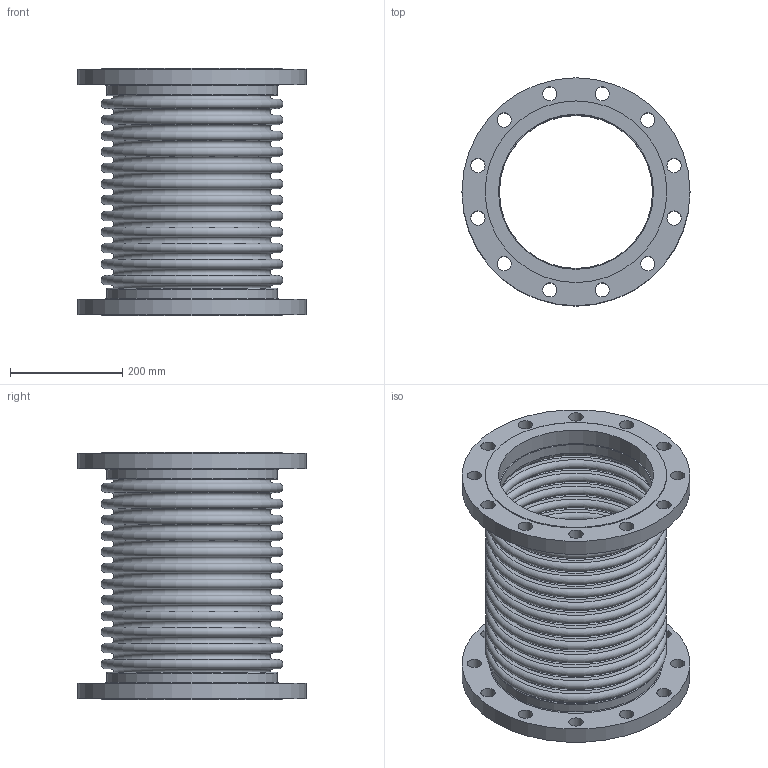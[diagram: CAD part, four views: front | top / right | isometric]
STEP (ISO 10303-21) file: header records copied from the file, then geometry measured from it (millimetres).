
FILE_DESCRIPTION(/* description */ ('EXPANSION JOINT,SINGLE, FLANGED ENDS,10 INCH NOMINAL','CAx-IF Rec.Pracs.---Representation and Presentation of Product Manufacturing Information (PMI)---4.0---2014-10-13'),/* implementation_level */ '2;1');
FILE_NAME(/* name */ 'US-10-12-300L-FLANGED ENDS.stp',/* time_stamp */ '2026-07-31T17:15:54-05:00',/* author */ ('Guadalupe'),/* organization */ (''),/* preprocessor_version */ 'ST-DEVELOPER v20.1',/* originating_system */ 'Autodesk Inventor 2026',/* authorisation */ '');
FILE_SCHEMA (('AP242_MANAGED_MODEL_BASED_3D_ENGINEERING_MIM_LF { 1 0 10303 442 2 1 4 }'));
Length unit declared in the file: inch
Products named in the file (3): 10-300L; 10-300L-02; 10-300L-01
Assembly tree (3 placements, depth 2):
  10-300L
    10-300L-02  x2
    10-300L-01
Bounding box: 406.4 x 406.4 x 441.45 mm (x, y, z)
Volume: 5979099.7 mm3; surface area: 1983902.3 mm2
Topology: 5 solids, 5 shells, 152 faces, 270 edges, 180 vertices
Faces by surface type: plane 62, torus 54, cylinder 36
Full cylindrical faces by diameter (mm): 25.4 x24, 273.05 x2, 276.352 x2, 277.927 x2, 304.8 x2, 323.85 x2, 406.4 x2
Entity records: 3450 total; most frequent: DIRECTION 710, CARTESIAN_POINT 513, ORIENTED_EDGE 432, AXIS2_PLACEMENT_3D 345, EDGE_CURVE 216, EDGE_LOOP 212, CIRCLE 196, VERTEX_POINT 144
